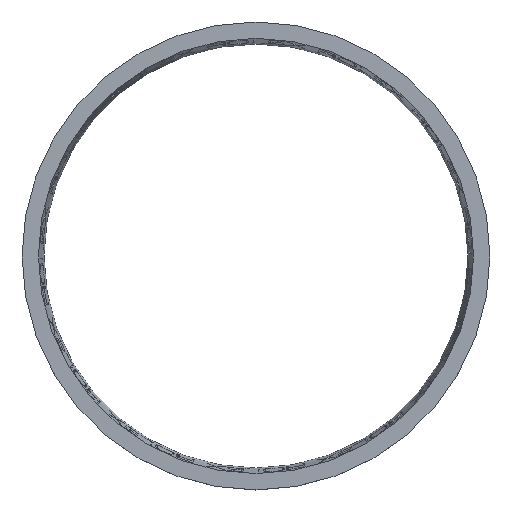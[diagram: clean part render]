
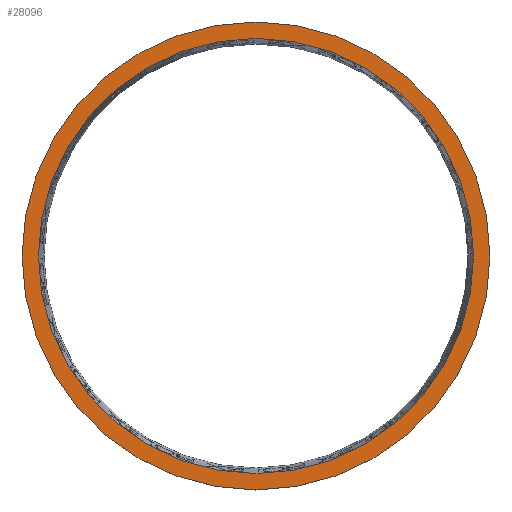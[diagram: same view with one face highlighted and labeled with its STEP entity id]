
A CAD part, top view. The second image highlights one B-rep face of the part: STEP entity #28096.
In plain terms, the highlighted planar face has unit normal (0, 0, 1).
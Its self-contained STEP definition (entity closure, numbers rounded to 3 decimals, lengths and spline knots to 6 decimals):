
#420=PLANE('',#29636);
#3337=CIRCLE('',#29627,0.058);
#3341=CIRCLE('',#29633,0.06236);
#11712=ORIENTED_EDGE('',*,*,#16591,.T.);
#11713=ORIENTED_EDGE('',*,*,#16595,.T.);
#16591=EDGE_CURVE('',#19722,#19722,#3337,.F.);
#16595=EDGE_CURVE('',#19726,#19726,#3341,.T.);
#19722=VERTEX_POINT('',#55280);
#19726=VERTEX_POINT('',#55290);
#24736=EDGE_LOOP('',(#11712));
#24737=EDGE_LOOP('',(#11713));
#26416=FACE_BOUND('',#24736,.T.);
#26417=FACE_BOUND('',#24737,.T.);
#28096=ADVANCED_FACE('',(#26416,#26417),#420,.T.);
#29627=AXIS2_PLACEMENT_3D('',#55279,#33120,#33121);
#29633=AXIS2_PLACEMENT_3D('',#55289,#33132,#33133);
#29636=AXIS2_PLACEMENT_3D('',#55294,#33138,#33139);
#33120=DIRECTION('',(0.,0.,1.));
#33121=DIRECTION('',(1.,0.,0.));
#33132=DIRECTION('',(0.,0.,1.));
#33133=DIRECTION('',(1.,0.,0.));
#33138=DIRECTION('',(0.,0.,1.));
#33139=DIRECTION('',(1.,0.,0.));
#55279=CARTESIAN_POINT('',(0.,0.,0.029));
#55280=CARTESIAN_POINT('',(0.058,0.,0.029));
#55289=CARTESIAN_POINT('',(0.,0.,0.029));
#55290=CARTESIAN_POINT('',(0.06236,0.,0.029));
#55294=CARTESIAN_POINT('',(0.,0.,0.029));
